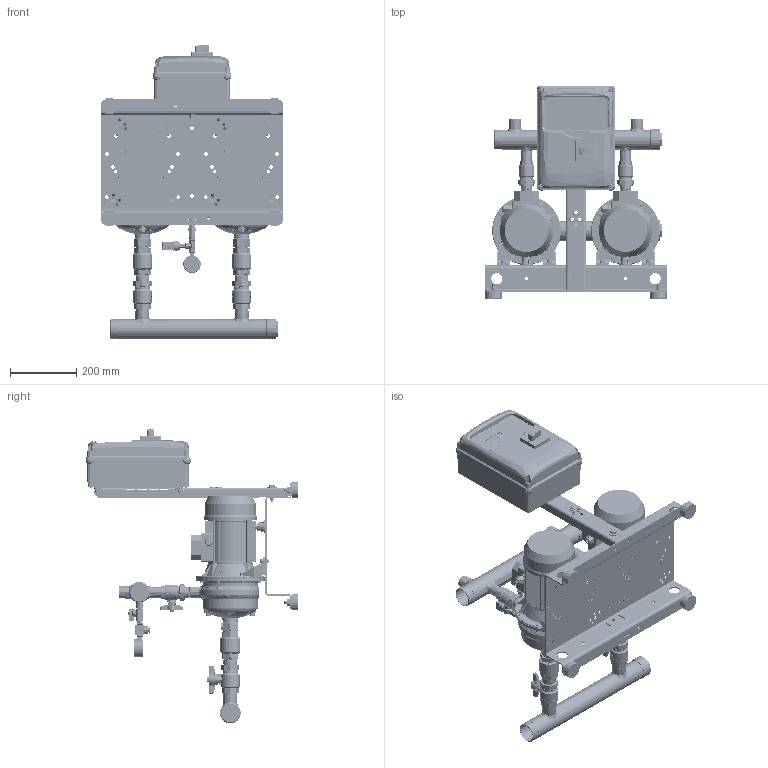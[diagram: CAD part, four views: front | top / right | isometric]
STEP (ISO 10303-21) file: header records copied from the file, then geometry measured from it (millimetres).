
FILE_DESCRIPTION((''),'2;1');
FILE_NAME('2GP_2CDX_120-15_REV5_ASM','2025-02-04T18:30:56',('Utente'),('"Ebara Pumps Europe S.p.A"'),'CREO PARAMETRIC BY PTC INC, 2022124','CREO PARAMETRIC BY PTC INC, 2022124','');
FILE_SCHEMA(('AUTOMOTIVE_DESIGN { 1 0 10303 214 1 1 1 1 }'));
Products named in the file (39): 62508_275562936; CALOTTA_F_A304_DN50_369800820; VAL_INT_MF-B_OTN_CIM346_DN32; VAL_INT_M-F-3_OTN_CIM346_DN32_ASM; VAL-NR-FF-OTN-CIM30-DN32; VAL_NR_F-F_OTN_CIM30_DN32_ASM; NIPPLO-ALIM_OT_DN32_361910051; TAPPO_M_OT_1-2_380000878; 3IEP_2CDX_120-15_IE3; EP_2CDX_120-15_ASM; VAL_INT_MF-B_OTN_CIM346_DN25; VAL_INT_M-F-3_OTN_CIM346_DN25_ASM; RONDEL-P_FE_ZN_UNI6592_M8; DADO_AUTOAGG_M8_ESAG; VITI_TE_ISO4017_M8_L20; 62510_275562942; TAPPO-SALVAFIL_D31; VAL_INT_MF_OTN_CIM012_DN8; NIPPLO_OTG_8_380000861; RACC-T_OTG_DN8_380000880; MAN_RAD_D50_10BAR_361600160; BASE_2GP_I300-B300_DNRV; MONTANTE_H600_271472877; PIEDINO_CIL_369650010; RONDEL-P_FE_ZN_UNI6592_M10; DADI_NORM_ISO4032_FE_ZN_M10; RONDEL-P_ZN_UNI6593_M10X30X2-5; VITI_TE_ISO4017_M10_L45; TRAVERSO_MONT_L200_271472882; RONDEL-P_FE_ZN_UNI6593_M6X18X2; RONDEL-P_FE_ZN_UNI6592_M6; VITI_TE_ISO4017_M6_L20; DADI_NORM_ISO4032_FE_ZN_M6; DADO_AUTOAGG_M10_ESAG; DNRV_2P_I300-B300_H600-Q220X300_ASM; COM_EP-PRO_2T_7-5_KW_362334215; PG_PVC_D10-5_380000891; TRASD_16BAR_460500024; 2GP_2CDX_120-15_REV5_ASM
Assembly tree (83 placements, depth 3):
  2GP_2CDX_120-15_REV5_ASM
    62508_275562936
    CALOTTA_F_A304_DN50_369800820  x2
    VAL_INT_M-F-3_OTN_CIM346_DN32_ASM  x2
      VAL_INT_MF-B_OTN_CIM346_DN32
    VAL_NR_F-F_OTN_CIM30_DN32_ASM  x2
      VAL-NR-FF-OTN-CIM30-DN32
    NIPPLO-ALIM_OT_DN32_361910051  x2
    TAPPO_M_OT_1-2_380000878  x2
    EP_2CDX_120-15_ASM  x2
      3IEP_2CDX_120-15_IE3
    VAL_INT_M-F-3_OTN_CIM346_DN25_ASM  x2
      VAL_INT_MF-B_OTN_CIM346_DN25
    RONDEL-P_FE_ZN_UNI6592_M8  x4
    DADO_AUTOAGG_M8_ESAG  x4
    VITI_TE_ISO4017_M8_L20  x4
    62510_275562942
    TAPPO-SALVAFIL_D31  x2
    VAL_INT_MF_OTN_CIM012_DN8
    NIPPLO_OTG_8_380000861
    RACC-T_OTG_DN8_380000880
    MAN_RAD_D50_10BAR_361600160
    DNRV_2P_I300-B300_H600-Q220X300_ASM
      BASE_2GP_I300-B300_DNRV
      MONTANTE_H600_271472877
      PIEDINO_CIL_369650010  x4
      RONDEL-P_FE_ZN_UNI6592_M10  x4
      DADI_NORM_ISO4032_FE_ZN_M10  x4
      RONDEL-P_ZN_UNI6593_M10X30X2-5
      VITI_TE_ISO4017_M10_L45
      TRAVERSO_MONT_L200_271472882  x2
      RONDEL-P_FE_ZN_UNI6593_M6X18X2  x8
      RONDEL-P_FE_ZN_UNI6592_M6  x4
      VITI_TE_ISO4017_M6_L20  x4
      DADI_NORM_ISO4032_FE_ZN_M6  x4
      DADO_AUTOAGG_M10_ESAG
    COM_EP-PRO_2T_7-5_KW_362334215
    PG_PVC_D10-5_380000891  x3
    TRASD_16BAR_460500024
Bounding box: 550 x 644.45 x 893.45 mm (x, y, z)
Volume: 11988605.3 mm3; surface area: 3325445.6 mm2
Topology: 1351 solids, 1486 shells, 21050 faces, 53433 edges, 35552 vertices
Faces by surface type: plane 14016, cylinder 3205, cone 1320, extrusion 943, bspline 869, torus 608, sphere 87, revolution 2
Entity records: 938713 total; most frequent: CARTESIAN_POINT 293137, ORIENTED_EDGE 79417, DIRECTION 74303, PRESENTATION_STYLE_ASSIGNMENT 51579, STYLED_ITEM 42110, EDGE_CURVE 40676, CURVE_STYLE 38632, VECTOR 30054
